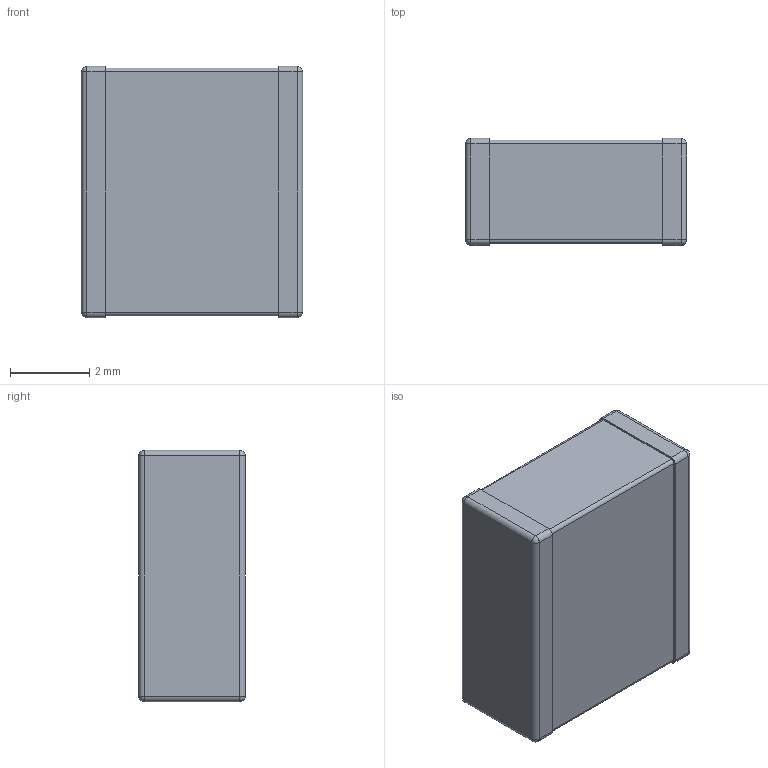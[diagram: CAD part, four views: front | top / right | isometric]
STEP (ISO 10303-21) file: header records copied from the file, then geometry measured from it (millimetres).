
FILE_DESCRIPTION (( 'STEP AP214' ), '1' );
FILE_NAME ('HV2225Y332JXMATHV.STEP', '2019-12-25T13:46:33', ( '' ), ( '' ), 'SwSTEP 2.0', 'SolidWorks 2018', '' );
FILE_SCHEMA (( 'AUTOMOTIVE_DESIGN' ));
Length unit declared in the file: millimetre
Products named in the file (1): HV2225Y332JXMATHV
Bounding box: 5.59 x 2.7 x 6.35 mm (x, y, z)
Volume: 92 mm3; surface area: 197.5 mm2
Topology: 3 solids, 3 shells, 46 faces, 104 edges, 56 vertices
Faces by surface type: cylinder 20, plane 18, sphere 8
Entity records: 1260 total; most frequent: DIRECTION 230, CARTESIAN_POINT 199, ORIENTED_EDGE 192, EDGE_CURVE 96, AXIS2_PLACEMENT_3D 87, LINE 56, VECTOR 56, VERTEX_POINT 56
